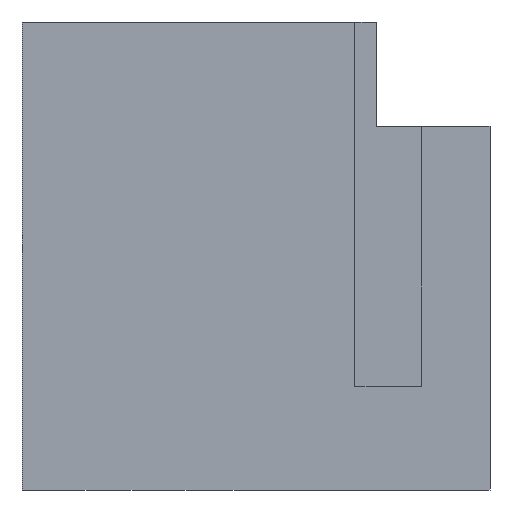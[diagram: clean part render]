
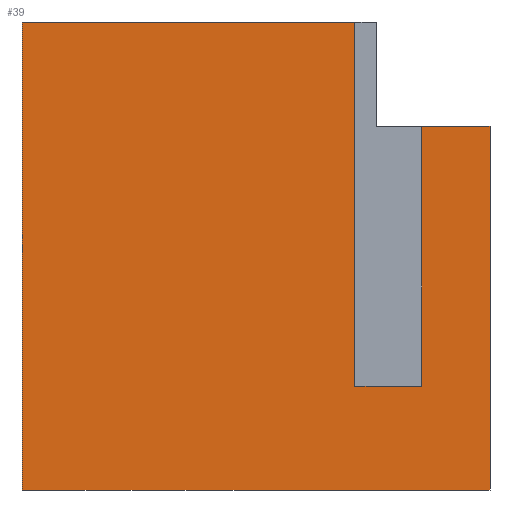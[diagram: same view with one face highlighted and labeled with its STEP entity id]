
A CAD part, left-side view. The second image highlights one B-rep face of the part: STEP entity #39.
In plain terms, the highlighted planar face has unit normal (-1, 0, 0).
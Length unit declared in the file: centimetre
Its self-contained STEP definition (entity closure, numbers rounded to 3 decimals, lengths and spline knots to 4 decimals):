
#7 = PLANE ( 'NONE',  #178 ) ;
#14 = CARTESIAN_POINT ( 'NONE',  ( 0., 1000., 0. ) ) ;
#36 = CARTESIAN_POINT ( 'NONE',  ( 0., 1000., 0. ) ) ;
#39 = ADVANCED_FACE ( 'NONE', ( #589 ), #7, .F. ) ;
#56 = VERTEX_POINT ( 'NONE', #508 ) ;
#68 = DIRECTION ( 'NONE',  ( 0., 0., -1. ) ) ;
#78 = EDGE_LOOP ( 'NONE', ( #375, #684, #368, #656, #707, #169, #565, #127 ) ) ;
#80 = CARTESIAN_POINT ( 'NONE',  ( 0., 288.7578, 1000. ) ) ;
#126 = EDGE_CURVE ( 'NONE', #672, #487, #704, .T. ) ;
#127 = ORIENTED_EDGE ( 'NONE', *, *, #203, .F. ) ;
#131 = EDGE_CURVE ( 'NONE', #586, #487, #514, .T. ) ;
#161 = EDGE_CURVE ( 'NONE', #556, #56, #529, .T. ) ;
#169 = ORIENTED_EDGE ( 'NONE', *, *, #434, .F. ) ;
#178 = AXIS2_PLACEMENT_3D ( 'NONE', #187, #651, #68 ) ;
#181 = VERTEX_POINT ( 'NONE', #238 ) ;
#186 = CARTESIAN_POINT ( 'NONE',  ( 0., 145.8311, 221.5227 ) ) ;
#187 = CARTESIAN_POINT ( 'NONE',  ( 0., 1000., 1000. ) ) ;
#203 = EDGE_CURVE ( 'NONE', #652, #56, #451, .T. ) ;
#204 = LINE ( 'NONE', #36, #305 ) ;
#238 = CARTESIAN_POINT ( 'NONE',  ( 0., 0., 0. ) ) ;
#258 = CARTESIAN_POINT ( 'NONE',  ( 0., 1000., 1000. ) ) ;
#268 = CARTESIAN_POINT ( 'NONE',  ( 0., 288.7578, 221.5227 ) ) ;
#274 = CARTESIAN_POINT ( 'NONE',  ( 0., 145.8311, 221.5227 ) ) ;
#281 = EDGE_CURVE ( 'NONE', #586, #483, #716, .T. ) ;
#283 = VECTOR ( 'NONE', #523, 100. ) ;
#295 = DIRECTION ( 'NONE',  ( 0., -1., 0. ) ) ;
#305 = VECTOR ( 'NONE', #496, 100. ) ;
#368 = ORIENTED_EDGE ( 'NONE', *, *, #131, .F. ) ;
#370 = CARTESIAN_POINT ( 'NONE',  ( 0., 0., 1000. ) ) ;
#375 = ORIENTED_EDGE ( 'NONE', *, *, #649, .F. ) ;
#377 = VECTOR ( 'NONE', #620, 100. ) ;
#391 = DIRECTION ( 'NONE',  ( 0., 0., 1. ) ) ;
#396 = VECTOR ( 'NONE', #405, 100. ) ;
#405 = DIRECTION ( 'NONE',  ( 0., 0., -1. ) ) ;
#434 = EDGE_CURVE ( 'NONE', #556, #181, #723, .T. ) ;
#450 = VECTOR ( 'NONE', #295, 100. ) ;
#451 = LINE ( 'NONE', #186, #484 ) ;
#454 = CARTESIAN_POINT ( 'NONE',  ( 0., 288.7578, 221.5227 ) ) ;
#483 = VERTEX_POINT ( 'NONE', #14 ) ;
#484 = VECTOR ( 'NONE', #650, 100. ) ;
#487 = VERTEX_POINT ( 'NONE', #80 ) ;
#490 = DIRECTION ( 'NONE',  ( 0., 0., -1. ) ) ;
#496 = DIRECTION ( 'NONE',  ( 0., -1., 0. ) ) ;
#506 = EDGE_CURVE ( 'NONE', #483, #181, #204, .T. ) ;
#508 = CARTESIAN_POINT ( 'NONE',  ( 0., 145.8311, 776.7678 ) ) ;
#514 = LINE ( 'NONE', #518, #450 ) ;
#518 = CARTESIAN_POINT ( 'NONE',  ( 0., 1000., 1000. ) ) ;
#523 = DIRECTION ( 'NONE',  ( 0., 1., 0. ) ) ;
#529 = LINE ( 'NONE', #582, #283 ) ;
#540 = CARTESIAN_POINT ( 'NONE',  ( 0., 1000., 1000. ) ) ;
#556 = VERTEX_POINT ( 'NONE', #673 ) ;
#565 = ORIENTED_EDGE ( 'NONE', *, *, #161, .T. ) ;
#567 = VECTOR ( 'NONE', #391, 100. ) ;
#582 = CARTESIAN_POINT ( 'NONE',  ( 0., 0., 776.7678 ) ) ;
#586 = VERTEX_POINT ( 'NONE', #258 ) ;
#589 = FACE_OUTER_BOUND ( 'NONE', #78, .T. ) ;
#616 = LINE ( 'NONE', #274, #377 ) ;
#620 = DIRECTION ( 'NONE',  ( 0., -1., 0. ) ) ;
#649 = EDGE_CURVE ( 'NONE', #672, #652, #616, .T. ) ;
#650 = DIRECTION ( 'NONE',  ( 0., 0., 1. ) ) ;
#651 = DIRECTION ( 'NONE',  ( 1., 0., 0. ) ) ;
#652 = VERTEX_POINT ( 'NONE', #742 ) ;
#656 = ORIENTED_EDGE ( 'NONE', *, *, #281, .T. ) ;
#672 = VERTEX_POINT ( 'NONE', #268 ) ;
#673 = CARTESIAN_POINT ( 'NONE',  ( 0., 0., 776.7678 ) ) ;
#684 = ORIENTED_EDGE ( 'NONE', *, *, #126, .T. ) ;
#704 = LINE ( 'NONE', #454, #567 ) ;
#707 = ORIENTED_EDGE ( 'NONE', *, *, #506, .T. ) ;
#716 = LINE ( 'NONE', #540, #741 ) ;
#723 = LINE ( 'NONE', #370, #396 ) ;
#741 = VECTOR ( 'NONE', #490, 100. ) ;
#742 = CARTESIAN_POINT ( 'NONE',  ( 0., 145.8311, 221.5227 ) ) ;
